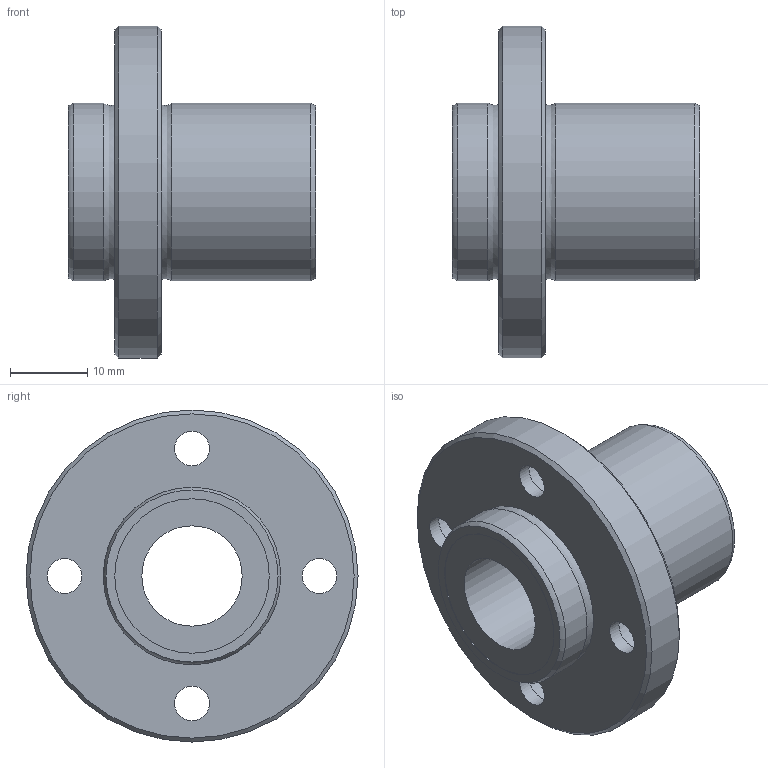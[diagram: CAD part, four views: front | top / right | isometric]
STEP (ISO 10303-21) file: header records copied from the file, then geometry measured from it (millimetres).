
FILE_DESCRIPTION((''),'2;1');
FILE_NAME('D:\製品 (図面)\カタログ用3D\リニアベアリング関連\STEP形式\LFB\LFB13.stp','2010-06-03T09:16:46',('Tsuchiya'),(''),'Autodesk Inventor 10','Autodesk Inventor 10','');
FILE_SCHEMA(('AUTOMOTIVE_DESIGN { 1 0 10303 214 1 1 1 1 }'));
Length unit declared in the file: millimetre
Products named in the file (1): LFB13
Bounding box: 32 x 43 x 43 mm (x, y, z)
Volume: 14164.3 mm3; surface area: 6958.8 mm2
Topology: 1 solids, 1 shells, 30 faces, 54 edges, 34 vertices
Faces by surface type: bspline 14, cylinder 6, plane 6, cone 2, torus 2
Full cylindrical faces by diameter (mm): 13 x1, 20 x2, 23 x2, 43 x1
Entity records: 907 total; most frequent: CARTESIAN_POINT 371, DIRECTION 102, ORIENTED_EDGE 68, EDGE_LOOP 68, AXIS2_PLACEMENT_3D 51, FACE_BOUND 38, VERTEX_POINT 34, CIRCLE 34
